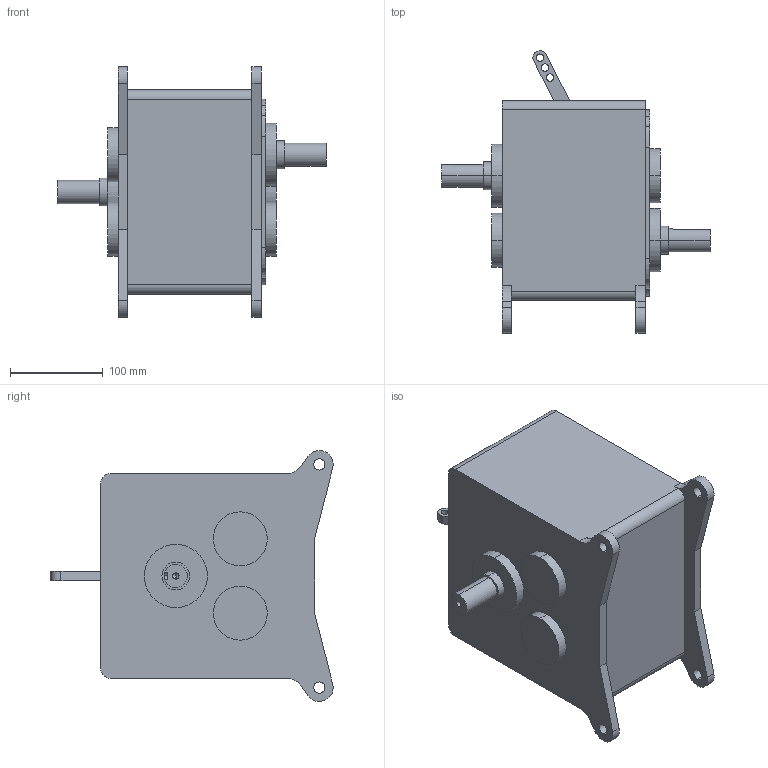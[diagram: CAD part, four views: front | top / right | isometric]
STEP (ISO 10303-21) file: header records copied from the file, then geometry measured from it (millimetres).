
FILE_DESCRIPTION (( 'STEP AP214' ), '1' );
FILE_NAME ('613-000 dummy gearbox RS1-S.STEP', '2022-01-29T13:52:05', ( '' ), ( '' ), 'SwSTEP 2.0', 'SolidWorks 2020', '' );
FILE_SCHEMA (( 'AUTOMOTIVE_DESIGN' ));
Length unit declared in the file: millimetre
Products named in the file (1): 613-000 dummy gearbox RS1-S
Bounding box: 289 x 303.73 x 269.96 mm (x, y, z)
Volume: 6746785.9 mm3; surface area: 383931.2 mm2
Topology: 1 solids, 4 shells, 1447 faces, 3848 edges, 2562 vertices
Faces by surface type: bspline 688, plane 664, cylinder 91, cone 4
Entity records: 75768 total; most frequent: CARTESIAN_POINT 43938, ORIENTED_EDGE 7688, DIRECTION 4164, EDGE_CURVE 3844, VERTEX_POINT 2562, VECTOR 2284, LINE 2284, EDGE_LOOP 1618
